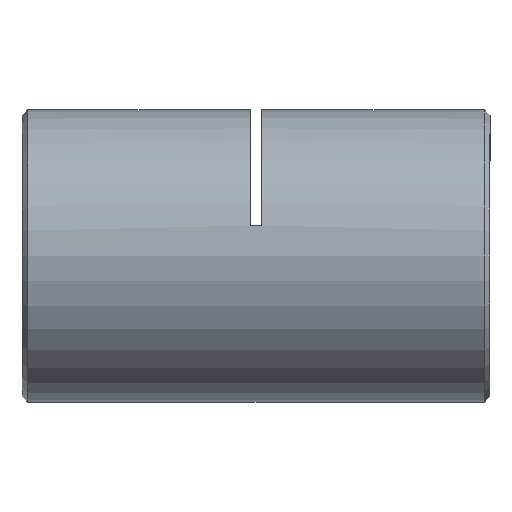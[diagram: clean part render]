
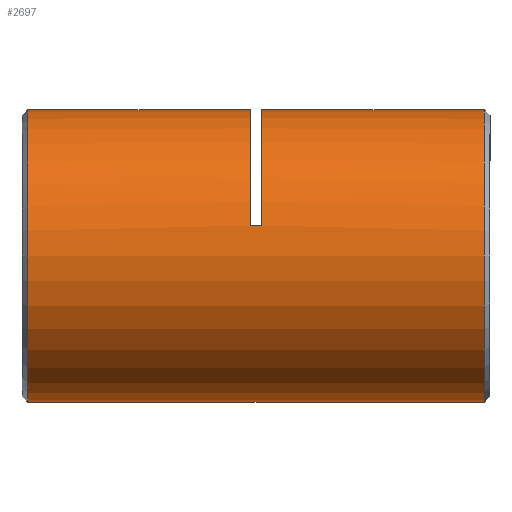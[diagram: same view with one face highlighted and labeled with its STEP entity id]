
A CAD part, left-side view. The second image highlights one B-rep face of the part: STEP entity #2697.
In plain terms, the highlighted cylindrical face has radius 12.5 mm (diameter 25 mm), a partial arc.
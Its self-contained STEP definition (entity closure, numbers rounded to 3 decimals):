
#37 = LINE ( 'NONE', #5017, #4998 ) ;
#148 = EDGE_CURVE ( 'NONE', #2509, #1956, #1970, .T. ) ;
#240 = CIRCLE ( 'NONE', #2515, 12.5 ) ;
#313 = LINE ( 'NONE', #3061, #5175 ) ;
#332 = CARTESIAN_POINT ( 'NONE',  ( 0., 40.5, 0. ) ) ;
#393 = DIRECTION ( 'NONE',  ( 0., 0., -1. ) ) ;
#638 = CARTESIAN_POINT ( 'NONE',  ( 0., 20.75, 0. ) ) ;
#680 = VERTEX_POINT ( 'NONE', #4551 ) ;
#681 = VERTEX_POINT ( 'NONE', #2250 ) ;
#731 = DIRECTION ( 'NONE',  ( 0., 1., 0. ) ) ;
#866 = AXIS2_PLACEMENT_3D ( 'NONE', #638, #1136, #2441 ) ;
#965 = CARTESIAN_POINT ( 'NONE',  ( 0., 19.75, 0. ) ) ;
#1020 = DIRECTION ( 'NONE',  ( 0., 1., 0. ) ) ;
#1111 = ORIENTED_EDGE ( 'NONE', *, *, #1876, .T. ) ;
#1136 = DIRECTION ( 'NONE',  ( 0., 1., 0. ) ) ;
#1160 = CYLINDRICAL_SURFACE ( 'NONE', #3861, 12.5 ) ;
#1363 = EDGE_CURVE ( 'NONE', #2073, #3858, #4303, .T. ) ;
#1593 = AXIS2_PLACEMENT_3D ( 'NONE', #965, #2232, #2766 ) ;
#1691 = DIRECTION ( 'NONE',  ( 0., -1., 0. ) ) ;
#1876 = EDGE_CURVE ( 'NONE', #3858, #680, #4904, .T. ) ;
#1956 = VERTEX_POINT ( 'NONE', #2758 ) ;
#1970 = CIRCLE ( 'NONE', #1593, 12.5 ) ;
#1980 = CARTESIAN_POINT ( 'NONE',  ( -12.226, 20.75, 2.604 ) ) ;
#2023 = VERTEX_POINT ( 'NONE', #1980 ) ;
#2056 = DIRECTION ( 'NONE',  ( 0., -1., 0. ) ) ;
#2073 = VERTEX_POINT ( 'NONE', #5076 ) ;
#2140 = ORIENTED_EDGE ( 'NONE', *, *, #3749, .T. ) ;
#2202 = EDGE_CURVE ( 'NONE', #2509, #2023, #313, .T. ) ;
#2232 = DIRECTION ( 'NONE',  ( 0., 1., 0. ) ) ;
#2250 = CARTESIAN_POINT ( 'NONE',  ( 0., 20.75, 12.5 ) ) ;
#2401 = EDGE_CURVE ( 'NONE', #2073, #681, #37, .T. ) ;
#2441 = DIRECTION ( 'NONE',  ( 0., 0., 1. ) ) ;
#2468 = VECTOR ( 'NONE', #4236, 1000. ) ;
#2509 = VERTEX_POINT ( 'NONE', #3795 ) ;
#2515 = AXIS2_PLACEMENT_3D ( 'NONE', #3258, #1020, #4623 ) ;
#2689 = DIRECTION ( 'NONE',  ( 0., -1., 0. ) ) ;
#2697 = ADVANCED_FACE ( 'NONE', ( #3500 ), #1160, .T. ) ;
#2758 = CARTESIAN_POINT ( 'NONE',  ( 0., 19.75, 12.5 ) ) ;
#2766 = DIRECTION ( 'NONE',  ( 0., 0., 1. ) ) ;
#2822 = CARTESIAN_POINT ( 'NONE',  ( 0., 40.5, 12.5 ) ) ;
#2824 = VECTOR ( 'NONE', #4433, 1000. ) ;
#2841 = CIRCLE ( 'NONE', #866, 12.5 ) ;
#2913 = ORIENTED_EDGE ( 'NONE', *, *, #148, .F. ) ;
#3051 = EDGE_LOOP ( 'NONE', ( #5783, #5608, #1111, #4447, #4454, #2913, #3798, #2140 ) ) ;
#3061 = CARTESIAN_POINT ( 'NONE',  ( -12.226, 20.25, 2.604 ) ) ;
#3182 = AXIS2_PLACEMENT_3D ( 'NONE', #3992, #1691, #393 ) ;
#3258 = CARTESIAN_POINT ( 'NONE',  ( 0., 0.75, 0. ) ) ;
#3500 = FACE_OUTER_BOUND ( 'NONE', #3051, .T. ) ;
#3749 = EDGE_CURVE ( 'NONE', #2023, #681, #2841, .T. ) ;
#3790 = LINE ( 'NONE', #2822, #2468 ) ;
#3795 = CARTESIAN_POINT ( 'NONE',  ( -12.226, 19.75, 2.604 ) ) ;
#3798 = ORIENTED_EDGE ( 'NONE', *, *, #2202, .T. ) ;
#3858 = VERTEX_POINT ( 'NONE', #5745 ) ;
#3861 = AXIS2_PLACEMENT_3D ( 'NONE', #332, #2056, #5304 ) ;
#3992 = CARTESIAN_POINT ( 'NONE',  ( 0., 39.75, 0. ) ) ;
#4039 = EDGE_CURVE ( 'NONE', #1956, #4193, #3790, .T. ) ;
#4193 = VERTEX_POINT ( 'NONE', #4735 ) ;
#4236 = DIRECTION ( 'NONE',  ( 0., -1., 0. ) ) ;
#4303 = CIRCLE ( 'NONE', #3182, 12.5 ) ;
#4433 = DIRECTION ( 'NONE',  ( 0., -1., 0. ) ) ;
#4447 = ORIENTED_EDGE ( 'NONE', *, *, #5658, .T. ) ;
#4454 = ORIENTED_EDGE ( 'NONE', *, *, #4039, .F. ) ;
#4551 = CARTESIAN_POINT ( 'NONE',  ( 0., 0.75, -12.5 ) ) ;
#4623 = DIRECTION ( 'NONE',  ( 0., 0., 1. ) ) ;
#4735 = CARTESIAN_POINT ( 'NONE',  ( 0., 0.75, 12.5 ) ) ;
#4904 = LINE ( 'NONE', #5290, #2824 ) ;
#4998 = VECTOR ( 'NONE', #2689, 1000. ) ;
#5017 = CARTESIAN_POINT ( 'NONE',  ( 0., 40.5, 12.5 ) ) ;
#5076 = CARTESIAN_POINT ( 'NONE',  ( 0., 39.75, 12.5 ) ) ;
#5175 = VECTOR ( 'NONE', #731, 1000. ) ;
#5290 = CARTESIAN_POINT ( 'NONE',  ( 0., 40.5, -12.5 ) ) ;
#5304 = DIRECTION ( 'NONE',  ( 0., 0., -1. ) ) ;
#5608 = ORIENTED_EDGE ( 'NONE', *, *, #1363, .T. ) ;
#5658 = EDGE_CURVE ( 'NONE', #680, #4193, #240, .T. ) ;
#5745 = CARTESIAN_POINT ( 'NONE',  ( 0., 39.75, -12.5 ) ) ;
#5783 = ORIENTED_EDGE ( 'NONE', *, *, #2401, .F. ) ;
